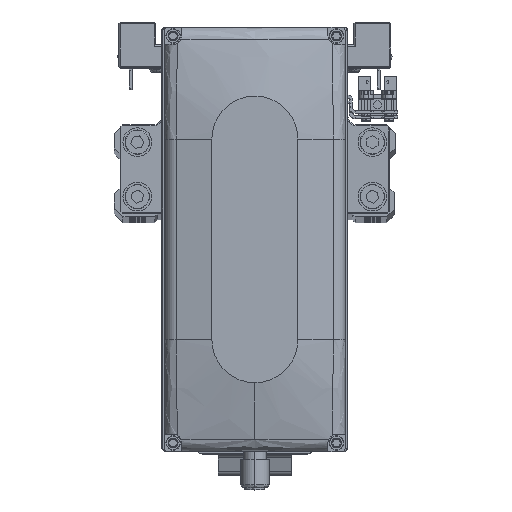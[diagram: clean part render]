
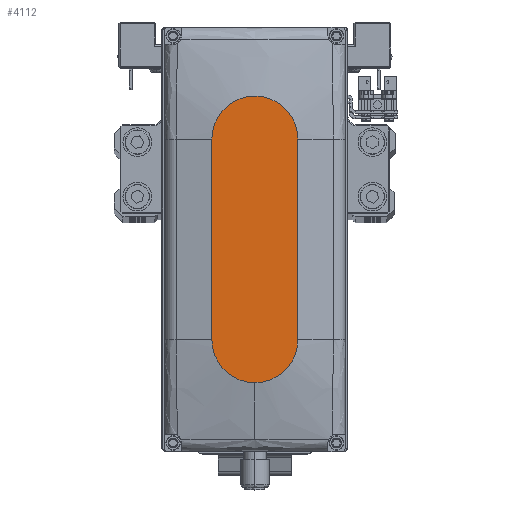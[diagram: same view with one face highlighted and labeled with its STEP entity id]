
A CAD part, top view. The second image highlights one B-rep face of the part: STEP entity #4112.
In plain terms, the highlighted planar face has unit normal (0, 0, 1).
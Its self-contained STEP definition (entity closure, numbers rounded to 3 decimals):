
#951 = CARTESIAN_POINT ( 'NONE',  ( -35., 0., 35. ) ) ;
#1128 = CARTESIAN_POINT ( 'NONE',  ( 35., 15., 35. ) ) ;
#2138 = LINE ( 'NONE', #15920, #27384 ) ;
#2450 = EDGE_LOOP ( 'NONE', ( #10669, #32052, #31547, #30598, #35278 ) ) ;
#2846 = VERTEX_POINT ( 'NONE', #37403 ) ;
#3721 = DIRECTION ( 'NONE',  ( 1., 0., 0. ) ) ;
#4112 = ADVANCED_FACE ( 'NONE', ( #24448 ), #38270, .T. ) ;
#4245 = CARTESIAN_POINT ( 'NONE',  ( 50., 0., 35. ) ) ;
#4413 = VERTEX_POINT ( 'NONE', #44108 ) ;
#7209 = CARTESIAN_POINT ( 'NONE',  ( 35., 0., 35. ) ) ;
#7244 = CARTESIAN_POINT ( 'NONE',  ( 0., 0., 35. ) ) ;
#8702 = LINE ( 'NONE', #22494, #27702 ) ;
#10182 = EDGE_CURVE ( 'NONE', #16426, #2846, #2138, .T. ) ;
#10669 = ORIENTED_EDGE ( 'NONE', *, *, #42263, .T. ) ;
#10742 = AXIS2_PLACEMENT_3D ( 'NONE', #20920, #34730, #3721 ) ;
#11090 = AXIS2_PLACEMENT_3D ( 'NONE', #7209, #21003, #34816 ) ;
#11656 = EDGE_CURVE ( 'NONE', #4413, #16426, #11895, .T. ) ;
#11895 = CIRCLE ( 'NONE', #37199, 15. ) ;
#14747 = DIRECTION ( 'NONE',  ( 0., 0., 1. ) ) ;
#15920 = CARTESIAN_POINT ( 'NONE',  ( -35., -15., 35. ) ) ;
#16426 = VERTEX_POINT ( 'NONE', #41349 ) ;
#16507 = VERTEX_POINT ( 'NONE', #4245 ) ;
#17915 = AXIS2_PLACEMENT_3D ( 'NONE', #7244, #21040, #34856 ) ;
#20920 = CARTESIAN_POINT ( 'NONE',  ( 35., 0., 35. ) ) ;
#21003 = DIRECTION ( 'NONE',  ( 0., 0., 1. ) ) ;
#21040 = DIRECTION ( 'NONE',  ( 0., 0., 1. ) ) ;
#22494 = CARTESIAN_POINT ( 'NONE',  ( -35., 15., 35. ) ) ;
#24448 = FACE_OUTER_BOUND ( 'NONE', #2450, .T. ) ;
#27384 = VECTOR ( 'NONE', #29726, 1000. ) ;
#27702 = VECTOR ( 'NONE', #36314, 1000. ) ;
#28556 = DIRECTION ( 'NONE',  ( 1., 0., 0. ) ) ;
#28882 = EDGE_CURVE ( 'NONE', #16507, #38241, #30620, .T. ) ;
#29726 = DIRECTION ( 'NONE',  ( 1., 0., 0. ) ) ;
#30266 = CIRCLE ( 'NONE', #10742, 15. ) ;
#30598 = ORIENTED_EDGE ( 'NONE', *, *, #30790, .T. ) ;
#30620 = CIRCLE ( 'NONE', #11090, 15. ) ;
#30790 = EDGE_CURVE ( 'NONE', #2846, #16507, #30266, .T. ) ;
#31547 = ORIENTED_EDGE ( 'NONE', *, *, #10182, .T. ) ;
#32052 = ORIENTED_EDGE ( 'NONE', *, *, #11656, .T. ) ;
#34730 = DIRECTION ( 'NONE',  ( 0., 0., 1. ) ) ;
#34816 = DIRECTION ( 'NONE',  ( 1., 0., 0. ) ) ;
#34856 = DIRECTION ( 'NONE',  ( 1., 0., 0. ) ) ;
#35278 = ORIENTED_EDGE ( 'NONE', *, *, #28882, .T. ) ;
#36314 = DIRECTION ( 'NONE',  ( -1., 0., 0. ) ) ;
#37199 = AXIS2_PLACEMENT_3D ( 'NONE', #951, #14747, #28556 ) ;
#37403 = CARTESIAN_POINT ( 'NONE',  ( 35., -15., 35. ) ) ;
#38241 = VERTEX_POINT ( 'NONE', #1128 ) ;
#38270 = PLANE ( 'NONE',  #17915 ) ;
#41349 = CARTESIAN_POINT ( 'NONE',  ( -35., -15., 35. ) ) ;
#42263 = EDGE_CURVE ( 'NONE', #38241, #4413, #8702, .T. ) ;
#44108 = CARTESIAN_POINT ( 'NONE',  ( -35., 15., 35. ) ) ;
